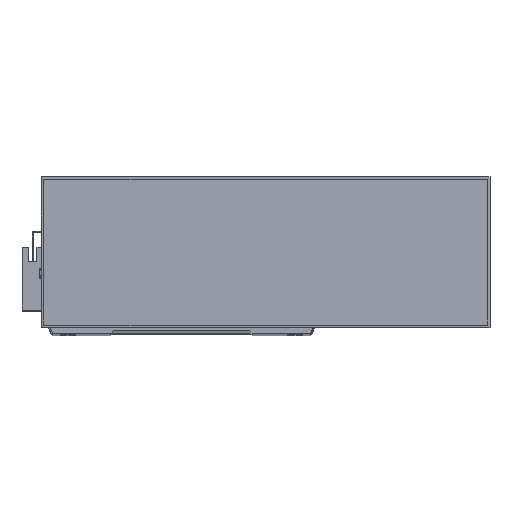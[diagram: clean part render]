
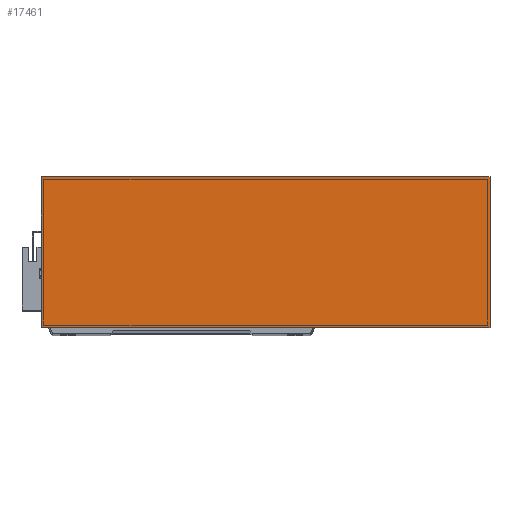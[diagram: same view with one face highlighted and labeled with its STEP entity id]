
A CAD part, top view. The second image highlights one B-rep face of the part: STEP entity #17461.
In plain terms, the highlighted planar face has unit normal (0, 0, 1).
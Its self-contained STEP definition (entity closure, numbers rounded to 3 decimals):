
#3415 = EDGE_CURVE ( 'NONE', #23649, #14713, #16864, .T. ) ;
#4227 = LINE ( 'NONE', #8491, #26255 ) ;
#4636 = VERTEX_POINT ( 'NONE', #23052 ) ;
#5078 = AXIS2_PLACEMENT_3D ( 'NONE', #18859, #7914, #23228 ) ;
#5119 = VECTOR ( 'NONE', #18247, 1000. ) ;
#5434 = ORIENTED_EDGE ( 'NONE', *, *, #27909, .T. ) ;
#6472 = ORIENTED_EDGE ( 'NONE', *, *, #14610, .T. ) ;
#7914 = DIRECTION ( 'NONE',  ( 0., 0., -1. ) ) ;
#8491 = CARTESIAN_POINT ( 'NONE',  ( 0., 0., 50. ) ) ;
#8916 = VECTOR ( 'NONE', #27449, 1000. ) ;
#9540 = CARTESIAN_POINT ( 'NONE',  ( 0., 93., 50. ) ) ;
#10493 = CARTESIAN_POINT ( 'NONE',  ( 0., 0., 50. ) ) ;
#10806 = VERTEX_POINT ( 'NONE', #15848 ) ;
#10830 = DIRECTION ( 'NONE',  ( 0., -1., 0. ) ) ;
#11029 = VECTOR ( 'NONE', #10830, 1000. ) ;
#11077 = CARTESIAN_POINT ( 'NONE',  ( 0., 0., 50. ) ) ;
#12387 = FACE_OUTER_BOUND ( 'NONE', #16979, .T. ) ;
#14200 = CARTESIAN_POINT ( 'NONE',  ( 277., 0., 50. ) ) ;
#14350 = CARTESIAN_POINT ( 'NONE',  ( 0., 93., 50. ) ) ;
#14610 = EDGE_CURVE ( 'NONE', #14713, #10806, #4227, .T. ) ;
#14713 = VERTEX_POINT ( 'NONE', #11077 ) ;
#15848 = CARTESIAN_POINT ( 'NONE',  ( 277., 0., 50. ) ) ;
#16864 = LINE ( 'NONE', #10493, #11029 ) ;
#16979 = EDGE_LOOP ( 'NONE', ( #21244, #6472, #20239, #5434 ) ) ;
#17461 = ADVANCED_FACE ( 'NONE', ( #12387 ), #25358, .F. ) ;
#18247 = DIRECTION ( 'NONE',  ( -1., 0., 0. ) ) ;
#18859 = CARTESIAN_POINT ( 'NONE',  ( 0., 0., 50. ) ) ;
#19535 = EDGE_CURVE ( 'NONE', #10806, #4636, #20587, .T. ) ;
#20239 = ORIENTED_EDGE ( 'NONE', *, *, #19535, .T. ) ;
#20587 = LINE ( 'NONE', #14200, #8916 ) ;
#21244 = ORIENTED_EDGE ( 'NONE', *, *, #3415, .T. ) ;
#22654 = LINE ( 'NONE', #9540, #5119 ) ;
#23052 = CARTESIAN_POINT ( 'NONE',  ( 277., 93., 50. ) ) ;
#23228 = DIRECTION ( 'NONE',  ( -1., 0., 0. ) ) ;
#23649 = VERTEX_POINT ( 'NONE', #14350 ) ;
#25358 = PLANE ( 'NONE',  #5078 ) ;
#26255 = VECTOR ( 'NONE', #28162, 1000. ) ;
#27449 = DIRECTION ( 'NONE',  ( 0., 1., 0. ) ) ;
#27909 = EDGE_CURVE ( 'NONE', #4636, #23649, #22654, .T. ) ;
#28162 = DIRECTION ( 'NONE',  ( 1., 0., 0. ) ) ;
